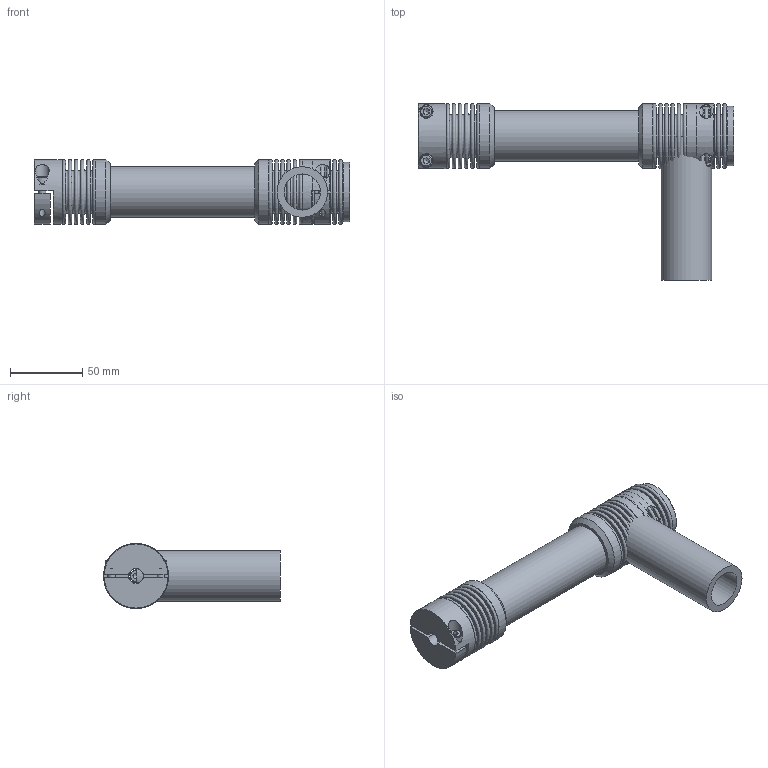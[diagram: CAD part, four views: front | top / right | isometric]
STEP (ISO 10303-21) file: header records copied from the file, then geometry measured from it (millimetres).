
FILE_DESCRIPTION( ( 'Unknown' ), '1' );
FILE_NAME( 'K:/Konstruktion/DRB/DRB18.stp', 'Unknown', ( 'Unknown' ), ( 'Unknown' ), 'XStep 1.0', 'Unknown', ' ' );
FILE_SCHEMA( ( 'automotive_design' ) );
Length unit declared in the file: millimetre
Products named in the file (8): Assem1; KN4H-18; BK18_Standard_0; BK18_Standard_0-oa0; Socket Head Cap Screw_DIN_DIN 912 M5 x 16 --- 16N_1; R35; Aufnahme R35
Bounding box: 218.49 x 122.5 x 45 mm (x, y, z)
Volume: 229731.8 mm3; surface area: 185791.5 mm2
Topology: 20 solids, 20 shells, 420 faces, 789 edges, 508 vertices
Faces by surface type: plane 217, torus 106, cylinder 69, cone 28
Full cylindrical faces by diameter (mm): 4.134 x6, 5 x5, 5.3 x6, 8.5 x5, 9.5 x6, 10 x3, 20 x3, 25 x5, 35 x2, 40.4 x8, 41 x8, 45 x6
Entity records: 4025 total; most frequent: CARTESIAN_POINT 857, DIRECTION 694, ORIENTED_EDGE 406, AXIS2_PLACEMENT_3D 327, EDGE_LOOP 304, FACE_OUTER_BOUND 235, EDGE_CURVE 203, VERTEX_POINT 180
